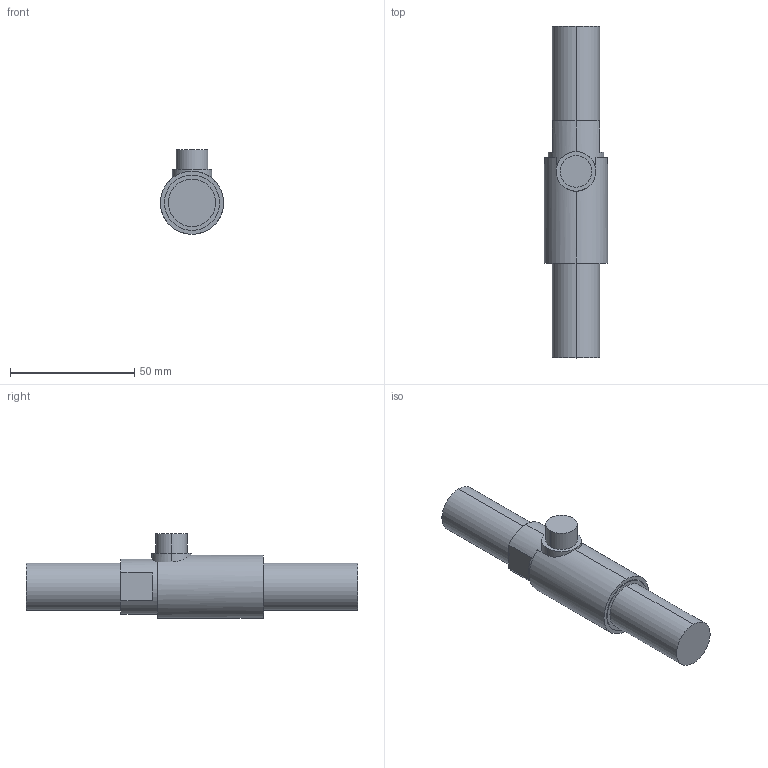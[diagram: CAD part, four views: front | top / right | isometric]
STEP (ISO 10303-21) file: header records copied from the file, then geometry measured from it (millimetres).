
FILE_DESCRIPTION (( 'STEP AP214' ), '1' );
FILE_NAME ('TT52-3KLB.STEP', '2024-09-05T14:14:37', ( '' ), ( '' ), 'SwSTEP 2.0', 'SolidWorks 2008', '' );
FILE_SCHEMA (( 'AUTOMOTIVE_DESIGN' ));
Length unit declared in the file: inch
Products named in the file (1): TT52-3KLB
Bounding box: 25.4 x 133.35 x 34.02 mm (x, y, z)
Volume: 49928.7 mm3; surface area: 10424.7 mm2
Topology: 1 solids, 1 shells, 29 faces, 68 edges, 44 vertices
Faces by surface type: plane 15, cylinder 14
Entity records: 951 total; most frequent: CARTESIAN_POINT 232, DIRECTION 156, ORIENTED_EDGE 136, EDGE_CURVE 68, AXIS2_PLACEMENT_3D 62, VERTEX_POINT 44, EDGE_LOOP 32, LINE 32
